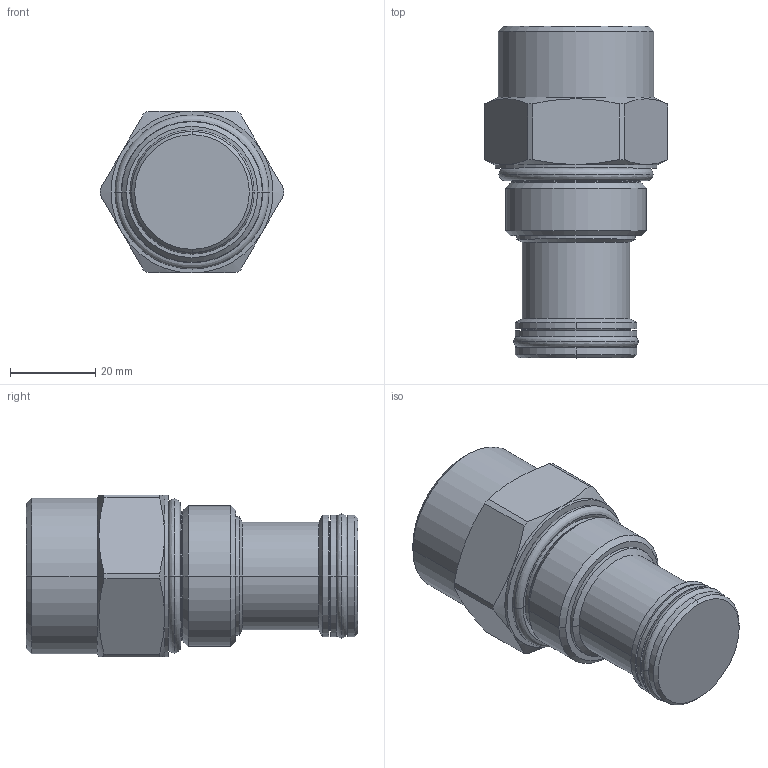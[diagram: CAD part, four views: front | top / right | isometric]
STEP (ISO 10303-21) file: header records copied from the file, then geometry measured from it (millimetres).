
FILE_DESCRIPTION((''),'2;1');
FILE_NAME('5425000_SW0002','2009-02-03T',('jcs'),(''),'PRO/ENGINEER BY PARAMETRIC TECHNOLOGY CORPORATION, 2008010','PRO/ENGINEER BY PARAMETRIC TECHNOLOGY CORPORATION, 2008010','');
FILE_SCHEMA(('CONFIG_CONTROL_DESIGN'));
Length unit declared in the file: inch
Products named in the file (1): 5425000_SW0002
Bounding box: 43.23 x 78.05 x 38.1 mm (x, y, z)
Volume: 67526.5 mm3; surface area: 13125.5 mm2
Topology: 4 solids, 4 shells, 88 faces, 194 edges, 112 vertices
Faces by surface type: cylinder 28, cone 24, revolution 16, plane 12, torus 8
Entity records: 2800 total; most frequent: CARTESIAN_POINT 806, DIRECTION 428, ORIENTED_EDGE 388, EDGE_CURVE 194, AXIS2_PLACEMENT_3D 180, VERTEX_POINT 112, CIRCLE 108, EDGE_LOOP 92
